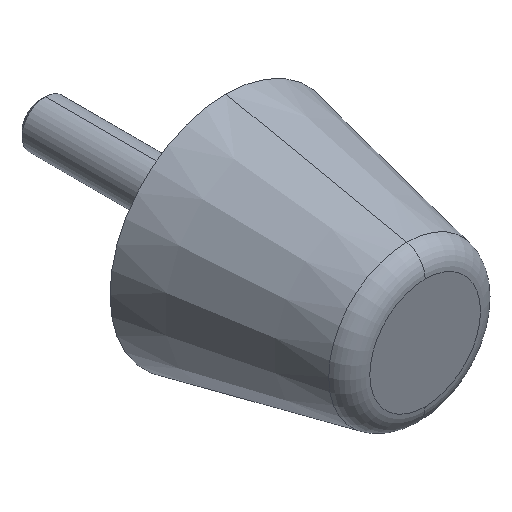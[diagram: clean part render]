
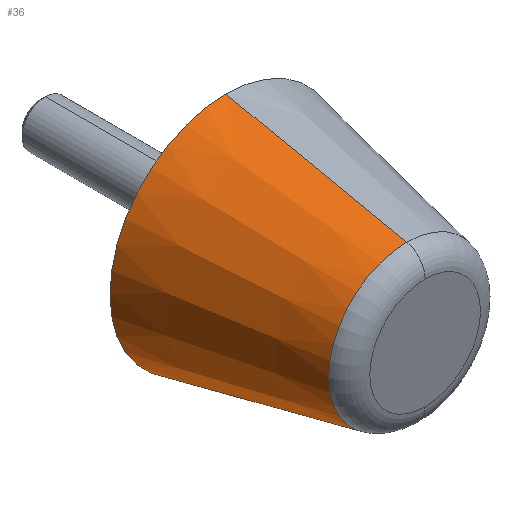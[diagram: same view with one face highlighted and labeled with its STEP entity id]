
A CAD part, isometric view. The second image highlights one B-rep face of the part: STEP entity #36.
In plain terms, the highlighted conical face has half-angle 11.821 degrees and reference radius 16 mm.
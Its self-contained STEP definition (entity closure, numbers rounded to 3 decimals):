
#2 = CARTESIAN_POINT ( 'NONE',  ( 0., 43., -25. ) ) ;
#6 = DIRECTION ( 'NONE',  ( 0., 0., -1. ) ) ;
#15 = CARTESIAN_POINT ( 'NONE',  ( 0., 3.976, -16.832 ) ) ;
#27 = CARTESIAN_POINT ( 'NONE',  ( 0., 0., -16. ) ) ;
#34 = ORIENTED_EDGE ( 'NONE', *, *, #381, .T. ) ;
#36 = ADVANCED_FACE ( 'NONE', ( #486 ), #435, .T. ) ;
#43 = EDGE_CURVE ( 'NONE', #473, #404, #81, .T. ) ;
#51 = DIRECTION ( 'NONE',  ( 0., 1., 0. ) ) ;
#71 = VECTOR ( 'NONE', #294, 1000. ) ;
#81 = LINE ( 'NONE', #27, #86 ) ;
#86 = VECTOR ( 'NONE', #328, 1000. ) ;
#87 = AXIS2_PLACEMENT_3D ( 'NONE', #533, #488, #112 ) ;
#112 = DIRECTION ( 'NONE',  ( 0., 0., -1. ) ) ;
#138 = DIRECTION ( 'NONE',  ( 0., 0., 1. ) ) ;
#149 = CIRCLE ( 'NONE', #330, 16.832 ) ;
#151 = ORIENTED_EDGE ( 'NONE', *, *, #439, .T. ) ;
#157 = ORIENTED_EDGE ( 'NONE', *, *, #43, .F. ) ;
#196 = AXIS2_PLACEMENT_3D ( 'NONE', #261, #224, #138 ) ;
#224 = DIRECTION ( 'NONE',  ( 0., 1., 0. ) ) ;
#252 = CARTESIAN_POINT ( 'NONE',  ( 0., 43., 25. ) ) ;
#257 = CARTESIAN_POINT ( 'NONE',  ( 0., 0., 16. ) ) ;
#261 = CARTESIAN_POINT ( 'NONE',  ( 0., 0., 0. ) ) ;
#279 = CIRCLE ( 'NONE', #87, 25. ) ;
#286 = EDGE_CURVE ( 'NONE', #420, #404, #279, .T. ) ;
#294 = DIRECTION ( 'NONE',  ( 0., 0.979, 0.205 ) ) ;
#323 = EDGE_LOOP ( 'NONE', ( #157, #151, #34, #368 ) ) ;
#328 = DIRECTION ( 'NONE',  ( 0., 0.979, -0.205 ) ) ;
#330 = AXIS2_PLACEMENT_3D ( 'NONE', #337, #51, #6 ) ;
#331 = CARTESIAN_POINT ( 'NONE',  ( 0., 3.976, 16.832 ) ) ;
#337 = CARTESIAN_POINT ( 'NONE',  ( 0., 3.976, 0. ) ) ;
#368 = ORIENTED_EDGE ( 'NONE', *, *, #286, .T. ) ;
#381 = EDGE_CURVE ( 'NONE', #536, #420, #462, .T. ) ;
#404 = VERTEX_POINT ( 'NONE', #2 ) ;
#420 = VERTEX_POINT ( 'NONE', #252 ) ;
#435 = CONICAL_SURFACE ( 'NONE', #196, 16., 0.206 ) ;
#439 = EDGE_CURVE ( 'NONE', #473, #536, #149, .T. ) ;
#462 = LINE ( 'NONE', #257, #71 ) ;
#473 = VERTEX_POINT ( 'NONE', #15 ) ;
#486 = FACE_OUTER_BOUND ( 'NONE', #323, .T. ) ;
#488 = DIRECTION ( 'NONE',  ( 0., -1., 0. ) ) ;
#533 = CARTESIAN_POINT ( 'NONE',  ( 0., 43., 0. ) ) ;
#536 = VERTEX_POINT ( 'NONE', #331 ) ;
